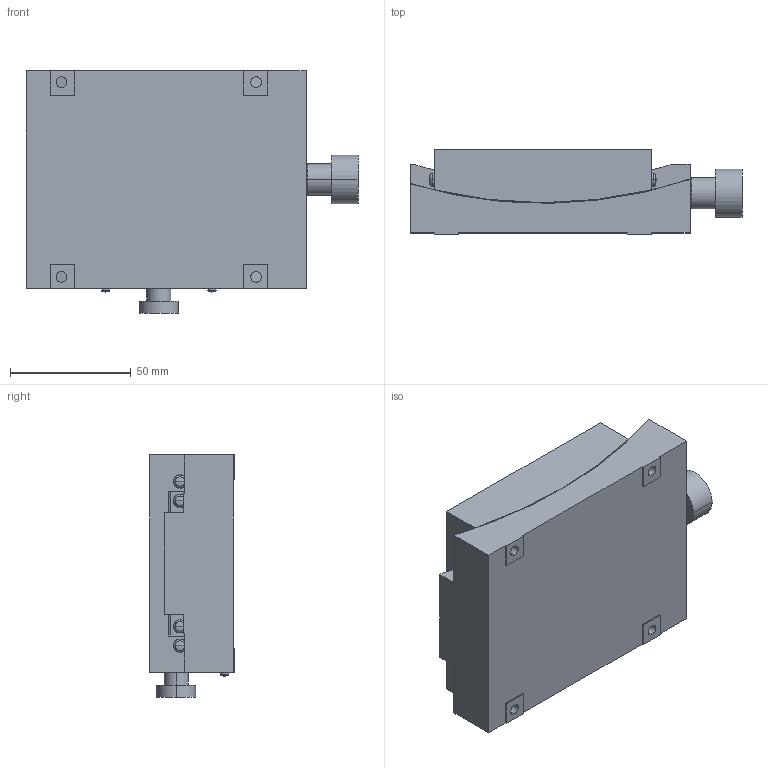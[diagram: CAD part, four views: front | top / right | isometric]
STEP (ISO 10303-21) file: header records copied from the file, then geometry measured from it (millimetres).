
FILE_DESCRIPTION (( 'STEP AP203' ), '1' );
FILE_NAME ('TS-C943.STEP', '2008-02-28T05:08:06', ( '' ), ( '' ), 'SwSTEP 2.0', 'SolidWorks 2007', '' );
FILE_SCHEMA (( 'CONFIG_CONTROL_DESIGN' ));
Length unit declared in the file: millimetre
Products named in the file (3): TS-C943; TS-C943-2_蹬怮椔; TS-C943-1_蹬怮椔
Assembly tree (2 placements, depth 2):
  TS-C943
    TS-C943-1_蹬怮椔
    TS-C943-2_蹬怮椔
Bounding box: 137.5 x 35 x 100.3 mm (x, y, z)
Volume: 333606.7 mm3; surface area: 61656.2 mm2
Topology: 2 solids, 2 shells, 245 faces, 601 edges, 390 vertices
Faces by surface type: cylinder 99, plane 78, cone 28, torus 20, sphere 20
Entity records: 8292 total; most frequent: CARTESIAN_POINT 1973, DIRECTION 1349, ORIENTED_EDGE 1186, EDGE_CURVE 593, AXIS2_PLACEMENT_3D 546, VERTEX_POINT 390, EDGE_LOOP 309, CIRCLE 296
